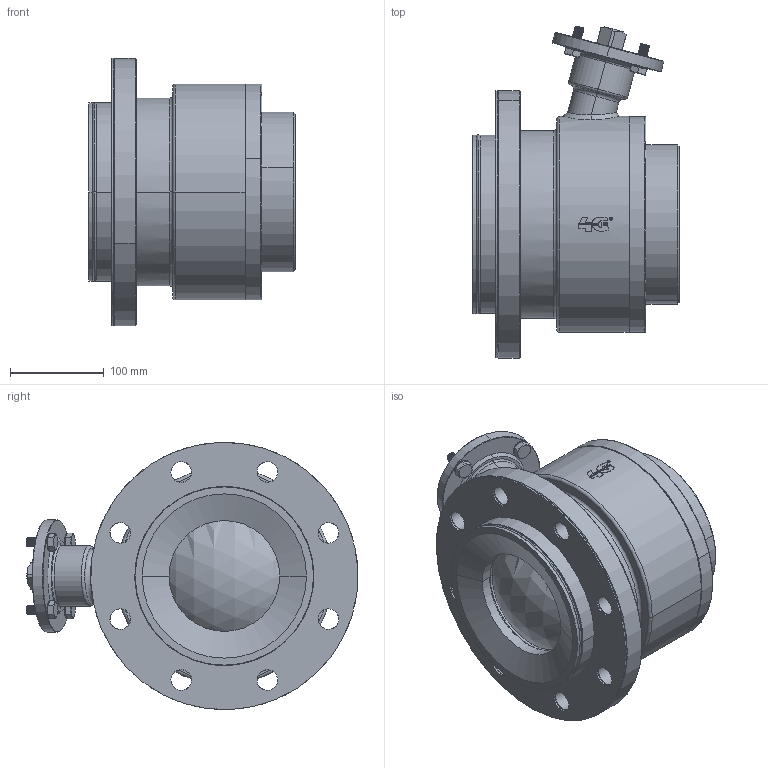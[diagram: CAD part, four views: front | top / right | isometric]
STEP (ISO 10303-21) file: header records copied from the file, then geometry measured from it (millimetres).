
FILE_DESCRIPTION((''),'2;1');
FILE_NAME('153001A65810','2024-12-02T10:38:32',('tecnico2'),('CDM Tecnoconsulting'),'CREO PARAMETRIC BY PTC INC, 2024063','CREO PARAMETRIC BY PTC INC, 2024063','');
FILE_SCHEMA(('CONFIG_CONTROL_DESIGN','SHAPE_APPEARANCE_LAYERS_GROUPS'));
Products named in the file (1): 153001A65810
Bounding box: 220 x 353.67 x 284.73 mm (x, y, z)
Volume: 1917821.5 mm3; surface area: 711405.2 mm2
Topology: 2 solids, 2 shells, 1746 faces, 4667 edges, 2998 vertices
Faces by surface type: plane 661, cylinder 583, cone 256, bspline 132, extrusion 56, torus 54, sphere 4
Entity records: 128409 total; most frequent: CARTESIAN_POINT 70925, ORIENTED_EDGE 9314, DIRECTION 7609, PRESENTATION_STYLE_ASSIGNMENT 4987, STYLED_ITEM 4715, CURVE_STYLE 4713, EDGE_CURVE 4657, VERTEX_POINT 2998
